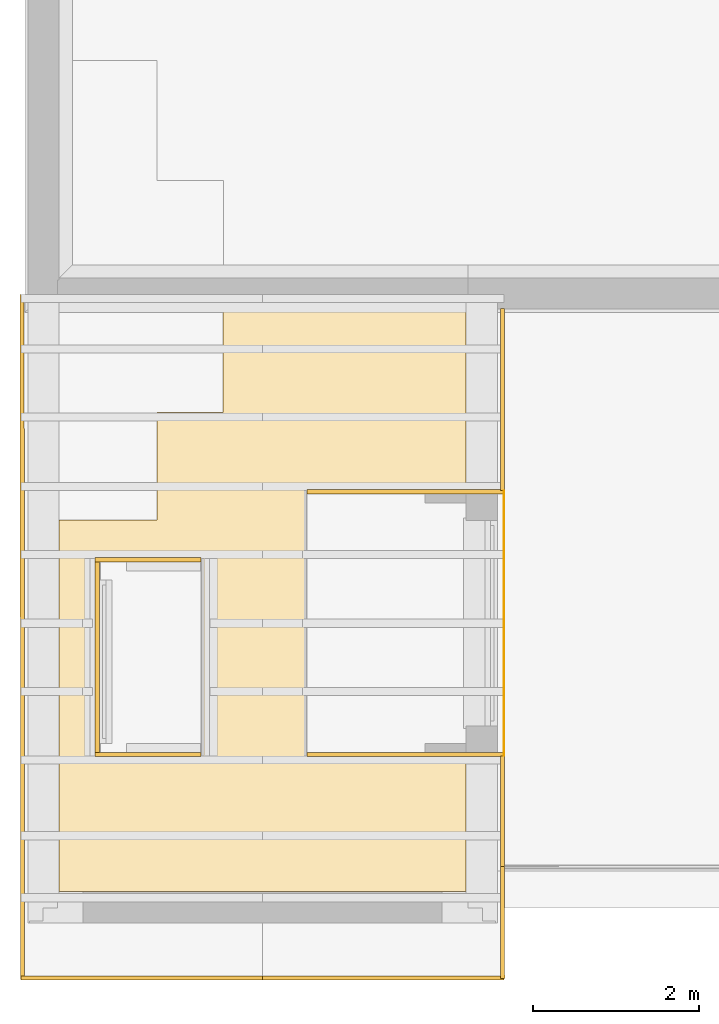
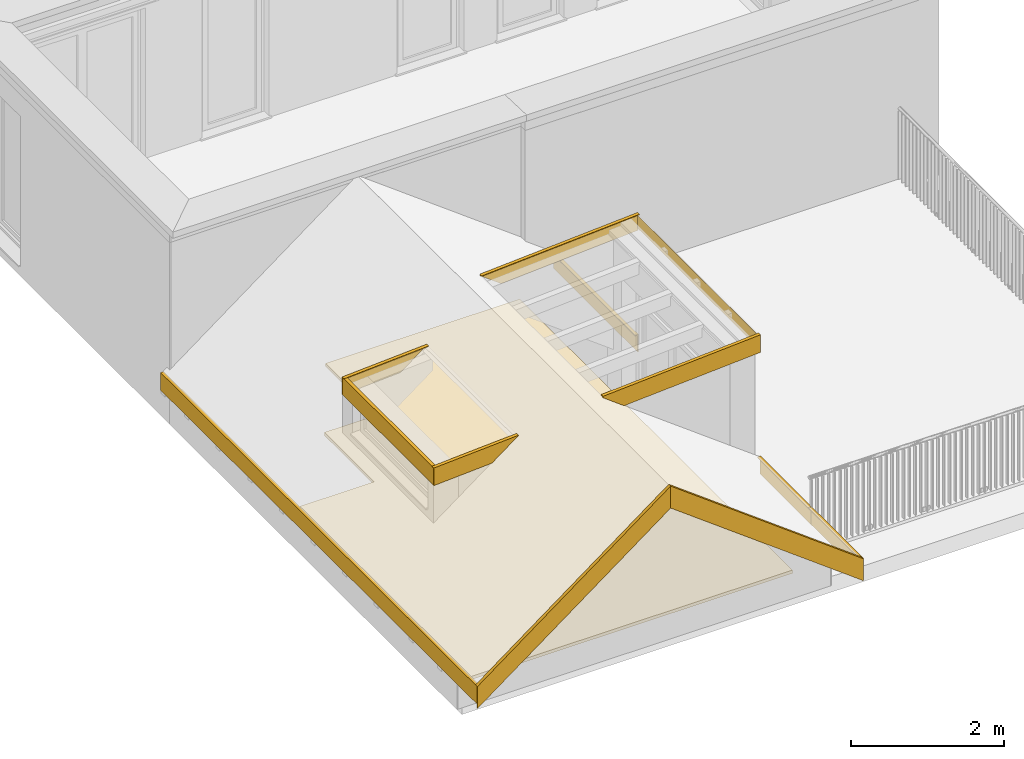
# One storey, part 10 of 15: 13 coverings.
"""IFC4 building model written with IfcOpenShell, lengths in metres."""

from ifc_helpers import new_model, entity, si_unit, converted_unit, derived_unit, direction, frame, origin_with_axes, place, context, subcontext, project, spatial, triangles, material, constituent, constituent_set, type_object, element, save


model = new_model("IFC4")

# Units and contexts
model_context = context("Model", 3, precision=1e-05, world=origin_with_axes(), true_north=direction((-0.526213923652, 0.850352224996)))
body_context = subcontext(model_context, "Body", "Model", "MODEL_VIEW")
ifc_project = project(units=[si_unit("LENGTHUNIT", "METRE"), si_unit("AREAUNIT", "SQUARE_METRE"), si_unit("VOLUMEUNIT", "CUBIC_METRE"), converted_unit("PLANEANGLEUNIT", "DEGREE", entity("IfcPlaneAngleMeasure", 0.0174532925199), si_unit("PLANEANGLEUNIT", "RADIAN"), dimensions=[0, 0, 0, 0, 0, 0, 0]), si_unit("SOLIDANGLEUNIT", "STERADIAN"), converted_unit("TIMEUNIT", "Year", entity("IfcTimeMeasure", 31556926.0), si_unit("TIMEUNIT", "SECOND"), dimensions=[0, 0, 1, 0, 0, 0, 0]), si_unit("MASSUNIT", "GRAM", prefix="KILO"), si_unit("THERMODYNAMICTEMPERATUREUNIT", "DEGREE_CELSIUS"), si_unit("LUMINOUSINTENSITYUNIT", "LUMEN"), si_unit("ENERGYUNIT", "JOULE", prefix="MEGA"), derived_unit("THERMALCONDUCTANCEUNIT", [(si_unit("POWERUNIT", "WATT"), 1), (si_unit("LENGTHUNIT", "METRE"), -1), (si_unit("THERMODYNAMICTEMPERATUREUNIT", "KELVIN"), -1)]), derived_unit("SPECIFICHEATCAPACITYUNIT", [(si_unit("ENERGYUNIT", "JOULE"), 1), (si_unit("MASSUNIT", "GRAM", prefix="KILO"), -1), (si_unit("THERMODYNAMICTEMPERATUREUNIT", "KELVIN"), -1)]), derived_unit("MASSDENSITYUNIT", [(si_unit("MASSUNIT", "GRAM", prefix="KILO"), 1), (si_unit("VOLUMEUNIT", "CUBIC_METRE"), -1)])], contexts=[model_context])

# Site, building, storey, space
site_placement = place(None, origin_with_axes())
site = spatial("IfcSite", under=ifc_project, at=site_placement, Name="Gelände", CompositionType="ELEMENT")
building_placement = place(site_placement, origin_with_axes())
building = spatial("IfcBuilding", under=site, at=building_placement, Name="Haus vom Nikolaus", CompositionType="ELEMENT")
storey_placement = place(building_placement, frame((0.0, 0.0, 3.75), z_axis=(0.0, 0.0, 1.0), x_axis=(1.0, 0.0, 0.0)))
storey = spatial("IfcBuildingStorey", under=building, at=storey_placement, Name="1. OG", CompositionType="ELEMENT", Elevation=3.75)
space_1_placement = place(storey_placement, frame((-0.115002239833, 5.36483188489, 0.0), z_axis=(0.0, 0.0, 1.0), x_axis=(-1.0, 0.0, 0.0)))
space_1 = spatial("IfcSpace", under=storey, at=space_1_placement, Name="OG", CompositionType="ELEMENT")

# Coverings
ifc_material_1 = material(Name="Metall, Stahl verzinkt")
ifc_constituent_1 = constituent(ifc_material_1, Name="Component 1")
ifc_constituent_set_1 = constituent_set(constituents=[ifc_constituent_1], Name="Dachrandabschluss")
covering_type_1 = type_object("IfcCoveringType", Name="Dachrandabschluss 50 x 280", PredefinedType="ROOFING")
covering_1_placement = place(space_1_placement, frame((-3.36250965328, 3.46714904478, 2.59843645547), z_axis=(0.0, 0.0, 1.0), x_axis=(0.0, 1.0, 0.0)))
element("IfcCovering", 1, at=covering_1_placement, inside=space_1, type_object=covering_type_1, material=ifc_constituent_set_1, Name="Unterzug-010", PredefinedType="ROOFING", context=body_context, shape_type="Tessellation", body=[
    triangles([(0.01, 2.37787462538, -0.119733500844), (1.88414395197e-10, 0.319283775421, -0.250292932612), (0.0, 2.37787462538, -0.119733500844), (0.01, 0.319283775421, -0.250292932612), (0.0, 0.0308154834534, -0.0343339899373), (0.01, 0.0, -0.0112642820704), (0.0, 0.0, -0.0112642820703), (0.0, 0.0, 0.0), (0.0, 2.37787462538, 0.150808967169), (-0.04, 2.37787462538, 0.160829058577), (0.01, 2.37787462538, 0.160829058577), (-0.04, 2.37787462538, 0.150808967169), (0.01, 0.0, 0.0100200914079), (-0.04, 0.0, 0.0), (-0.04, 0.0, 0.0100200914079)], [[1, 2, 3], [2, 1, 4], [5, 4, 6], [5, 6, 7], [4, 5, 2], [2, 8, 9], [8, 5, 7], [2, 9, 3], [8, 2, 5], [3, 9, 1], [9, 10, 11], [10, 9, 12], [1, 9, 11], [4, 13, 6], [11, 4, 1], [13, 4, 11], [14, 8, 15], [8, 6, 13], [6, 8, 7], [15, 8, 13], [12, 8, 14], [12, 9, 8], [12, 15, 10], [15, 12, 14], [11, 15, 13], [11, 10, 15]], closed=True),
])
ifc_constituent_2 = constituent(ifc_material_1, Name="Component 1")
ifc_constituent_set_2 = constituent_set(constituents=[ifc_constituent_2], Name="Dachrandabschluss")
covering_2_placement = place(space_1_placement, frame((-5.74020357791, 0.267149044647, 0.806990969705), z_axis=(0.0, 0.0, 1.0), x_axis=(-1.0, 0.0, 0.0)))
element("IfcCovering", 2, at=covering_2_placement, inside=space_1, type_object=covering_type_1, material=ifc_constituent_set_2, Name="Unterzug-007", PredefinedType="ROOFING", context=body_context, shape_type="Tessellation", body=[
    triangles([(-0.04, 2.19705742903, 0.01), (0.01, 0.0, 0.01), (0.01, 2.19705742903, 0.01), (-0.04, 0.0, 0.01), (0.01, 0.0, -0.27), (0.01, 2.19705742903, -0.27), (0.0, 2.19705742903, 0.0), (0.0, 2.19705742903, -0.27), (-0.04, 2.19705742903, 0.0), (-0.04, 0.0, 0.0), (0.0, 0.0, 0.0), (0.0, 0.0, -0.27)], [[1, 2, 3], [1, 4, 2], [3, 5, 6], [3, 2, 5], [7, 6, 8], [7, 9, 1], [6, 7, 3], [3, 7, 1], [9, 4, 1], [9, 10, 4], [11, 4, 10], [11, 12, 5], [4, 11, 2], [2, 11, 5], [6, 12, 8], [6, 5, 12], [8, 11, 7], [8, 12, 11], [7, 10, 9], [7, 11, 10]], closed=True),
])
ifc_constituent_3 = constituent(ifc_material_1, Name="Component 1")
ifc_constituent_set_3 = constituent_set(constituents=[ifc_constituent_3], Name="Dachrandabschluss")
covering_3_placement = place(space_1_placement, frame((-3.36250965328, 0.267149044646, 2.59843651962), z_axis=(0.0, 0.0, 1.0), x_axis=(0.0, 1.0, 0.0)))
element("IfcCovering", 3, at=covering_3_placement, inside=space_1, type_object=covering_type_1, material=ifc_constituent_set_3, Name="Unterzug-010", PredefinedType="ROOFING", context=body_context, shape_type="Tessellation", body=[
    triangles([(0.0, 2.38143412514, -0.119731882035), (-0.01, 0.319318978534, -0.250319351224), (-0.01, 2.38143412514, -0.119731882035), (2.26347829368e-10, 0.319318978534, -0.250319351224), (1.8605472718e-10, 0.0308154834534, -0.0343340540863), (0.0, 0.0, -0.0112643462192), (-0.01, 0.0, -0.0112643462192), (-0.01, 0.0, 0.010020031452), (-0.01, 2.38143412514, 0.160828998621), (0.04, 2.38143412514, 0.150808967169), (0.0, 2.38143412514, 0.150808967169), (0.04, 2.38143412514, 0.160828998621), (0.0, 0.0, 0.0), (0.04, 0.0, 0.010020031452), (0.04, 0.0, 0.0)], [[1, 2, 3], [2, 1, 4], [5, 2, 4], [6, 7, 5], [2, 5, 7], [8, 9, 2], [8, 2, 7], [3, 2, 9], [10, 11, 12], [3, 11, 1], [3, 9, 11], [9, 12, 11], [4, 13, 5], [11, 4, 1], [13, 4, 11], [6, 5, 13], [14, 8, 13], [13, 7, 6], [14, 13, 15], [13, 8, 7], [12, 8, 14], [12, 9, 8], [15, 10, 14], [12, 14, 10], [11, 15, 13], [11, 10, 15]], closed=True),
])
ifc_constituent_4 = constituent(ifc_material_1, Name="Component 1")
ifc_constituent_set_4 = constituent_set(constituents=[ifc_constituent_4], Name="Dachrandabschluss")
covering_4_placement = place(space_1_placement, frame((-2.08843666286, 3.46714904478, 2.42425576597), z_axis=(0.0, 0.0, 1.0), x_axis=(0.0, -1.0, 0.0)))
element("IfcCovering", 4, at=covering_4_placement, inside=space_1, type_object=covering_type_1, material=ifc_constituent_set_4, Name="Unterzug-010", PredefinedType="ROOFING", context=body_context, shape_type="Tessellation", body=[
    triangles([(0.04, 0.0, 0.0100177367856), (-0.01, 0.0, 0.00581742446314), (0.04, 0.0, 0.00581742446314), (-0.01, 0.0, 0.0100177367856), (-5.66683699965e-09, 0.400979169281, -0.294371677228), (-1.98279361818e-08, 0.0366079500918, -0.0215887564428), (-0.01, 0.400979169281, -0.294371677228), (0.0, 0.00844262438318, -0.000503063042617), (0.04, 0.00844262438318, -0.000503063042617), (0.04, 1.2770590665, -0.0660772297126), (0.04, 1.2770590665, -0.0760949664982), (-0.01, 1.2770590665, -0.0660772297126), (-0.01, 1.2770590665, -0.34657385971), (0.0, 1.2770590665, -0.34657385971), (0.0, 1.2770590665, -0.0760949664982)], [[1, 2, 3], [1, 4, 2], [5, 6, 7], [2, 7, 6], [8, 3, 2], [8, 2, 6], [3, 8, 9], [9, 1, 3], [1, 9, 10], [10, 9, 11], [10, 4, 1], [10, 12, 4], [4, 12, 7], [4, 7, 2], [13, 7, 12], [13, 5, 7], [13, 14, 5], [15, 8, 6], [5, 15, 6], [15, 5, 14], [15, 9, 8], [15, 11, 9], [11, 15, 10], [13, 15, 14], [13, 12, 15], [12, 10, 15]], closed=True),
])
ifc_constituent_5 = constituent(ifc_material_1, Name="Component 1")
ifc_constituent_set_5 = constituent_set(constituents=[ifc_constituent_5], Name="Dachrandabschluss")
covering_5_placement = place(space_1_placement, frame((-0.821377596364, 3.46714904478, 2.34795486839), z_axis=(0.0, 0.0, 1.0), x_axis=(-1.0, 0.0, 0.0)))
element("IfcCovering", 5, at=covering_5_placement, inside=space_1, type_object=covering_type_1, material=ifc_constituent_set_5, Name="Unterzug-007", PredefinedType="ROOFING", context=body_context, shape_type="Tessellation", body=[
    triangles([(0.04, 0.04, 0.01), (-0.01, 2.33999997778, 0.01), (-0.01, 0.04, 0.01), (0.04, 2.33999997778, 0.01), (-0.01, 0.04, 0.000205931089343), (-0.01, 0.0, -0.27), (-0.01, 0.0, 0.000205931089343), (-0.01, 2.33999997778, -1.77514612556e-05), (-0.01, 2.37999997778, -0.27), (-0.01, 2.37999997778, -1.77514612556e-05), (0.04, 0.04, 0.0031852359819), (0.04, 2.33999997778, 0.00296278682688), (0.04, 0.0, 0.0), (0.04, 2.37999997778, 0.0), (0.04, 0.0, 0.0031852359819), (0.04, 2.37999997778, 0.00296278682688), (-0.00166189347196, 2.37999997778, -0.27), (0.0, 2.37999997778, -0.269900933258), (0.0, 2.37999997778, 0.0), (-0.00541903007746, 0.0, -0.27), (0.0, -0.01, -0.27), (-0.00541903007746, -0.01, -0.27), (0.0, 2.38999997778, -0.27), (-0.00166189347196, 2.38999997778, -0.27), (0.0, 0.0, -0.269677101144), (0.0, 0.0, 0.0), (0.0, -0.01, -0.269677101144), (0.0, 2.38999997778, -0.269900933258)], [[1, 2, 3], [1, 4, 2], [3, 2, 5], [6, 7, 5], [6, 8, 9], [8, 5, 2], [9, 8, 10], [8, 6, 5], [3, 11, 1], [11, 3, 5], [1, 11, 4], [12, 13, 14], [13, 11, 15], [13, 12, 11], [16, 12, 14], [12, 4, 11], [2, 12, 8], [2, 4, 12], [11, 7, 15], [11, 5, 7], [12, 10, 8], [12, 16, 10], [17, 9, 18], [19, 16, 14], [10, 16, 19], [10, 18, 9], [18, 10, 19], [17, 20, 9], [21, 22, 20], [9, 20, 6], [21, 17, 23], [23, 17, 24], [17, 21, 20], [7, 25, 26], [25, 7, 6], [15, 7, 26], [15, 26, 13], [25, 6, 20], [26, 14, 13], [26, 19, 14], [21, 23, 18], [21, 25, 27], [19, 25, 18], [25, 19, 26], [21, 18, 25], [28, 18, 23], [18, 24, 17], [18, 28, 24], [20, 27, 25], [27, 20, 22], [24, 28, 23], [22, 21, 27]], closed=True),
])
ifc_constituent_6 = constituent(ifc_material_1, Name="Component 1")
ifc_constituent_set_6 = constituent_set(constituents=[ifc_constituent_6], Name="Dachrandabschluss")
covering_6_placement = place(space_1_placement, frame((-2.08843666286, 1.087149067, 2.4240635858), z_axis=(0.0, 0.0, 1.0), x_axis=(0.0, -1.0, 0.0)))
element("IfcCovering", 6, at=covering_6_placement, inside=space_1, type_object=covering_type_1, material=ifc_constituent_set_6, Name="Unterzug-010", PredefinedType="ROOFING", context=body_context, shape_type="Tessellation", body=[
    triangles([(0.01, 0.0, 0.0100177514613), (-0.04, 0.0, 0.00600960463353), (0.01, 0.0, 0.00600960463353), (-0.04, 0.0, 0.0100177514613), (0.0, 0.00872184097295, -0.000519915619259), (-0.04, 0.00872184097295, -0.000519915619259), (-2.52077816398e-08, 0.0366079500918, -0.0213965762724), (-6.88921808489e-09, 0.401273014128, -0.294399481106), (0.01, 0.401273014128, -0.294399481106), (0.01, 1.2770590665, -0.0661087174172), (0.01, 1.2770590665, -0.346605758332), (-0.04, 1.2770590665, -0.0661087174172), (-0.04, 1.2770590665, -0.0761264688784), (0.0, 1.2770590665, -0.0761264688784), (0.0, 1.2770590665, -0.346605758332)], [[1, 2, 3], [1, 4, 2], [5, 2, 6], [7, 8, 9], [2, 5, 3], [3, 7, 9], [7, 3, 5], [9, 1, 3], [1, 9, 10], [10, 9, 11], [10, 4, 1], [10, 12, 4], [4, 12, 6], [4, 6, 2], [13, 6, 12], [13, 5, 6], [13, 14, 5], [5, 14, 7], [8, 14, 15], [14, 8, 7], [15, 9, 8], [15, 11, 9], [15, 14, 11], [14, 12, 10], [12, 14, 13], [11, 14, 10]], closed=True),
])
ifc_constituent_7 = constituent(ifc_material_1, Name="Component 1")
ifc_constituent_set_7 = constituent_set(constituents=[ifc_constituent_7], Name="Dachrandabschluss")
covering_7_placement = place(storey_placement, frame((2.71538204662, -0.79516787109, 2.98305173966), z_axis=(0.0, 0.0, 1.0), x_axis=(-1.85780368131e-10, 1.0, 0.0)))
element("IfcCovering", 7, at=covering_7_placement, inside=storey, type_object=covering_type_1, material=ifc_constituent_set_7, Name="Unterzug-002", PredefinedType="ROOFING", context=body_context, shape_type="Tessellation", body=[
    triangles([(0.0, 2.91638241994, -2.5155577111), (0.0, 2.91638241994, -2.44606076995), (0.0, 2.90997989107, -2.44606076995), (0.0, 0.000183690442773, -0.337152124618), (0.0, 2.86997987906, -2.16606076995), (0.0, 2.86997987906, -2.17606076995), (0.0, 2.90997989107, -2.17606076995), (0.0, 6.56037295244e-06, -4.90061014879e-06), (0.0, 2.89967290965, -2.16606076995), (-0.00466300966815, 2.90997627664, -2.17606076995), (-0.00466300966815, 2.90997627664, -2.44606076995), (-0.00463200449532, 2.86997628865, -2.17606076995), (-0.00463200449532, 2.86997628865, -2.16606076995), (-0.00466797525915, 2.91638241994, -2.16606076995), (0.04, 2.91638241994, -2.16606076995), (0.04, 2.89967290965, -2.16606076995), (0.04, 6.56036923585e-06, -4.90060737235e-06), (-0.01, 0.000183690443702, -0.337152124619), (0.04, 0.0, 0.0124820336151), (-0.01, 0.0, 0.0124820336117), (-0.01, 2.91638241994, -2.5155577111), (-0.00466797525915, 2.91638241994, -2.44606076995), (-0.01, 2.91638241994, -2.16606076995)], [[1, 2, 3], [4, 1, 3], [5, 4, 6], [6, 3, 7], [4, 5, 8], [9, 8, 5], [6, 4, 3], [3, 10, 7], [3, 11, 10], [10, 6, 7], [6, 10, 12], [6, 13, 5], [6, 12, 13], [13, 14, 9], [15, 9, 14], [13, 9, 5], [9, 15, 16], [16, 8, 9], [16, 17, 8], [8, 18, 4], [8, 17, 19], [18, 8, 20], [20, 8, 19], [1, 18, 21], [18, 1, 4], [1, 21, 22], [21, 23, 22], [1, 22, 2], [22, 23, 14], [2, 11, 3], [2, 22, 11], [10, 13, 12], [10, 11, 22], [10, 22, 14], [13, 10, 14], [20, 14, 23], [14, 19, 15], [14, 20, 19], [19, 16, 15], [16, 19, 17], [20, 23, 18], [21, 18, 23]], closed=True),
])
ifc_constituent_8 = constituent(ifc_material_1, Name="Component 1")
ifc_constituent_set_8 = constituent_set(constituents=[ifc_constituent_8], Name="Dachrandabschluss")
covering_8_placement = place(storey_placement, frame((5.62520133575, 1.89768284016, 2.78439792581), z_axis=(0.0, 0.0, 1.0), x_axis=(1.0, 0.0, 0.0)))
element("IfcCovering", 8, at=covering_8_placement, inside=storey, type_object=covering_type_1, material=ifc_constituent_set_8, Name="Unterzug-007", PredefinedType="ROOFING", context=body_context, shape_type="Tessellation", body=[
    triangles([(0.00374020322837, 3.19999999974, -0.174328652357), (0.0, 3.20000000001, -0.0693522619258), (0.00374020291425, 3.20000000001, -0.0691117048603), (0.0, 3.19999999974, -0.174569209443), (0.0, 0.0, -0.0693522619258), (0.0, -4.42105241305e-10, -0.174569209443), (0.0, -2.99638980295e-10, -0.27), (0.0, 3.1999999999, -0.27), (0.00374020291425, 0.0, -0.0691117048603), (0.00374020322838, -4.42105241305e-10, -0.174328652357), (0.00374020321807, 3.19999999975, -0.27), (0.00374020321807, -4.3044612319e-10, -0.27)], [[1, 2, 3], [2, 1, 4], [5, 4, 6], [4, 5, 2], [7, 4, 8], [4, 7, 6], [2, 9, 3], [9, 2, 5], [9, 1, 3], [9, 10, 1], [4, 11, 8], [4, 1, 11], [5, 10, 9], [5, 6, 10], [7, 11, 12], [11, 7, 8], [6, 12, 10], [12, 6, 7], [1, 12, 11], [1, 10, 12]], closed=True),
])
ifc_constituent_9 = constituent(ifc_material_1, Name="Component 1")
ifc_constituent_set_9 = constituent_set(constituents=[ifc_constituent_9], Name="Dachrandabschluss")
covering_9_placement = place(storey_placement, frame((2.71538204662, -0.79516787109, 2.98304192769), z_axis=(0.0, 0.0, 1.0), x_axis=(0.0, -1.0, 0.0)))
element("IfcCovering", 9, at=covering_9_placement, inside=storey, type_object=covering_type_1, material=ifc_constituent_set_9, Name="Unterzug-002", PredefinedType="ROOFING", context=body_context, shape_type="Tessellation", body=[
    triangles([(0.01, 0.0, 0.0124918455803), (-0.00736794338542, 2.90999999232, -2.16605095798), (-0.04, 0.0, 0.0124918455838), (-0.04, 2.90999999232, -2.16605095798), (0.01, 2.90999999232, -2.16605095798), (0.01, 2.90999999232, -2.51582263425), (0.0, 2.90999999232, -2.17854280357), (-0.00736794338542, 2.90999999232, -2.17854280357), (0.0, 2.90999999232, -2.51582263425), (-0.04, 2.89331394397, -2.16605095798), (-0.00733198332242, 2.89331394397, -2.16605095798), (-0.04, -6.56037666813e-06, 4.91136131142e-06), (0.0, -6.56037295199e-06, 4.91135852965e-06), (0.0, -0.000183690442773, -0.337142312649), (0.01, -0.000183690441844, -0.33714231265), (-0.00736788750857, 2.90997406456, -2.178523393), (-0.00736077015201, 2.9066714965, -2.17605095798), (-0.04, 2.9066714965, -2.17605095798), (-0.04, 2.90990373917, -2.1784707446), (-0.00736788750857, 2.90997406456, -2.17605095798), (-0.04, 2.90990373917, -2.17605095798)], [[1, 2, 3], [3, 2, 4], [2, 1, 5], [5, 6, 7], [2, 5, 7], [2, 7, 8], [9, 7, 6], [2, 10, 4], [10, 2, 11], [10, 3, 4], [10, 12, 3], [13, 3, 12], [13, 14, 15], [13, 15, 1], [3, 13, 1], [5, 15, 6], [15, 5, 1], [11, 12, 10], [8, 7, 16], [17, 16, 7], [12, 11, 13], [18, 19, 17], [17, 7, 11], [13, 11, 7], [16, 17, 19], [2, 17, 11], [2, 8, 20], [20, 8, 16], [17, 2, 20], [9, 15, 14], [9, 6, 15], [13, 7, 14], [9, 14, 7], [19, 20, 16], [19, 21, 20], [17, 21, 18], [21, 17, 20], [19, 18, 21]], closed=True),
])
ifc_constituent_10 = constituent(ifc_material_1, Name="Component 1")
ifc_constituent_set_10 = constituent_set(constituents=[ifc_constituent_10], Name="Dachrandabschluss")
covering_10_placement = place(storey_placement, frame((-0.194594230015, -0.799830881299, 0.806990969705), z_axis=(0.0, 0.0, 1.0), x_axis=(0.999999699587, 0.000775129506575, 0.0)))
element("IfcCovering", 10, at=covering_10_placement, inside=storey, type_object=covering_type_1, material=ifc_constituent_set_10, Name="Unterzug-007", PredefinedType="ROOFING", context=body_context, shape_type="Tessellation", body=[
    triangles([(0.0, 8.2646104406, -0.27), (-0.01, 0.0, -0.27), (-0.01, 8.2646104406, -0.27), (0.0, 0.0, -0.27), (-0.01, 0.0, 0.01), (-0.01, 8.2646104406, 0.01), (0.0, 8.2646104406, 0.0), (0.04, 8.2646104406, 0.01), (0.04, 8.2646104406, 0.0), (0.0, 0.0, 0.0), (0.04, 0.0, 0.01), (0.04, 0.0, 0.0)], [[1, 2, 3], [1, 4, 2], [3, 5, 6], [3, 2, 5], [7, 8, 9], [7, 1, 3], [7, 3, 6], [8, 7, 6], [7, 4, 1], [7, 10, 4], [10, 11, 5], [10, 2, 4], [11, 10, 12], [2, 10, 5], [6, 11, 8], [6, 5, 11], [8, 12, 9], [8, 11, 12], [9, 10, 7], [9, 12, 10]], closed=True),
])

# Space
space_2_placement = place(storey_placement, frame((5.54538200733, 7.30483361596, 0.150099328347), z_axis=(0.0, 0.0, 1.0), x_axis=(4.71857297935e-05, -0.999999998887, 0.0)))
space_2 = spatial("IfcSpace", under=storey, at=space_2_placement, Name="R-001", CompositionType="ELEMENT")

# Coverings
ifc_constituent_11 = constituent(ifc_material_1, Name="Component 1")
ifc_constituent_set_11 = constituent_set(constituents=[ifc_constituent_11], Name="Dachrandabschluss")
covering_11_placement = place(space_2_placement, frame((8.09263736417, 0.079592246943, 0.656891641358), z_axis=(0.0, 0.0, 1.0), x_axis=(-0.00210790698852, 0.999997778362, 0.0)))
element("IfcCovering", 11, at=covering_11_placement, inside=space_2, type_object=covering_type_1, material=ifc_constituent_set_11, Name="Unterzug-007", PredefinedType="ROOFING", context=body_context, shape_type="Tessellation", body=[
    triangles([(-0.04, 0.0, 0.01), (0.01, 1.3536791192, 0.01), (-0.04, 1.3536791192, 0.01), (0.01, 0.0, 0.01), (0.01, 0.0, -0.27), (0.01, 1.3536791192, -0.27), (0.0, 1.3536791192, 0.0), (0.0, 1.3536791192, -0.27), (-0.04, 1.3536791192, 0.0), (-0.04, 0.0, 0.0), (0.0, 0.0, 0.0), (0.0, 0.0, -0.27)], [[1, 2, 3], [2, 1, 4], [2, 5, 6], [2, 4, 5], [7, 6, 8], [7, 9, 3], [6, 7, 2], [2, 7, 3], [9, 1, 3], [9, 10, 1], [11, 1, 10], [11, 12, 5], [1, 11, 4], [4, 11, 5], [6, 12, 8], [6, 5, 12], [8, 11, 7], [8, 12, 11], [11, 9, 7], [9, 11, 10]], closed=True),
])
ifc_constituent_12 = constituent(ifc_material_1, Name="Component 1")
ifc_constituent_set_12 = constituent_set(constituents=[ifc_constituent_12], Name="Dachrandabschluss")
covering_12_placement = place(space_2_placement, frame((6.73916836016, 0.0767395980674, 0.656891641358), z_axis=(0.0, 0.0, 1.0), x_axis=(0.00212053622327, 0.999997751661, 0.0)))
element("IfcCovering", 12, at=covering_12_placement, inside=space_2, type_object=covering_type_1, material=ifc_constituent_set_12, Name="Unterzug-007", PredefinedType="ROOFING", context=body_context, shape_type="Tessellation", body=[
    triangles([(-0.04, 1.33201681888, 0.0), (-1.21997791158e-06, 0.00020710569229, 0.0), (-0.0400008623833, 3.79683418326e-05, 0.0), (0.0, 1.33201681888, 0.0), (0.0, 1.33201681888, -0.27), (-1.21997791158e-06, 0.00020710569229, -0.27), (0.00999869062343, 0.000249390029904, -0.27), (0.00999869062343, 0.000249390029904, 0.01), (-0.0400008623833, 3.79683418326e-05, 0.01), (-0.04, 1.33201681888, 0.01), (0.01, 1.33201681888, 0.01), (0.01, 1.33201681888, -0.27)], [[1, 2, 3], [2, 1, 4], [2, 5, 6], [2, 4, 5], [2, 7, 8], [2, 9, 3], [7, 2, 6], [9, 2, 8], [9, 1, 3], [9, 10, 1], [11, 12, 4], [10, 11, 4], [10, 4, 1], [5, 4, 12], [5, 7, 6], [7, 5, 12], [8, 10, 9], [10, 8, 11], [7, 11, 8], [7, 12, 11]], closed=True),
])
ifc_material_2 = material(Name="Belag, Parkett")
covering_type_2 = type_object("IfcCoveringType", Name="Belag, Parkett 50", PredefinedType="NOTDEFINED")
covering_13_placement = place(space_1_placement, frame((-0.354615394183, 5.12387871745, 0.15), z_axis=(0.0, 0.0, 1.0), x_axis=(-1.0, 0.0, 0.0)))
element("IfcCovering", 13, at=covering_13_placement, inside=space_1, type_object=covering_type_2, material=ifc_material_2, Name="Decke-008", PredefinedType="FLOORING", context=body_context, shape_type="Tessellation", body=[
    triangles([(4.93076889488, 7.15387882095, 0.0), (4.93076889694, 0.0188789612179, -0.05), (4.93076889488, 7.15387882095, -0.05), (4.93076889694, 0.0188789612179, 0.0), (1.20038448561, 4.49887893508, -0.05), (1.20038448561, 5.79887892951, -0.05), (2.00038442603, 5.79887892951, -0.05), (2.00038442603, 7.15387922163, -0.05), (0.020384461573, 0.0188789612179, -0.05), (0.0201526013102, 4.49887893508, -0.05), (2.00038442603, 7.15387922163, 0.0), (2.00038442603, 5.79887892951, 0.0), (1.20038448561, 4.49887893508, 0.0), (1.20038448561, 5.79887892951, 0.0), (0.020384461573, 0.0188789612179, 0.0), (0.0201526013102, 4.49887893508, 0.0)], [[1, 2, 3], [1, 4, 2], [5, 6, 7], [3, 2, 7], [3, 7, 8], [5, 9, 10], [5, 7, 2], [9, 5, 2], [1, 8, 11], [1, 3, 8], [12, 1, 11], [13, 12, 14], [1, 12, 4], [12, 13, 4], [15, 13, 16], [13, 15, 4], [4, 9, 2], [4, 15, 9], [8, 12, 11], [8, 7, 12], [15, 10, 9], [15, 16, 10], [16, 5, 10], [16, 13, 5], [6, 13, 14], [6, 5, 13], [7, 14, 12], [7, 6, 14]], closed=True),
])

save(model, "model.ifc")
